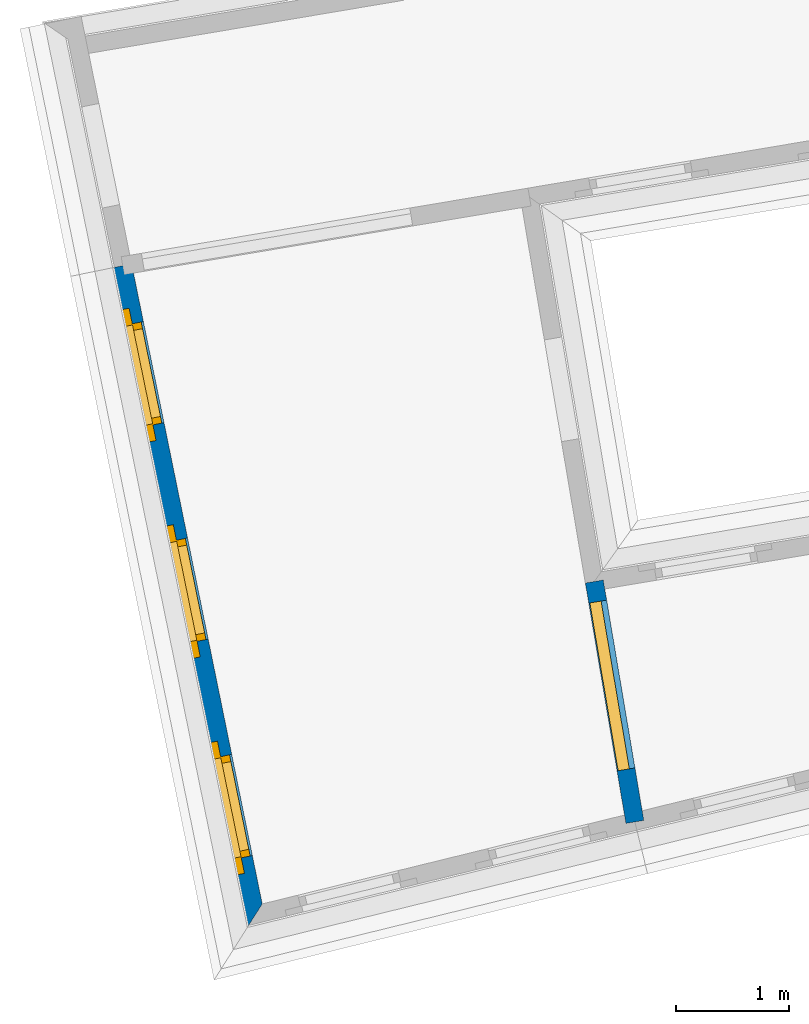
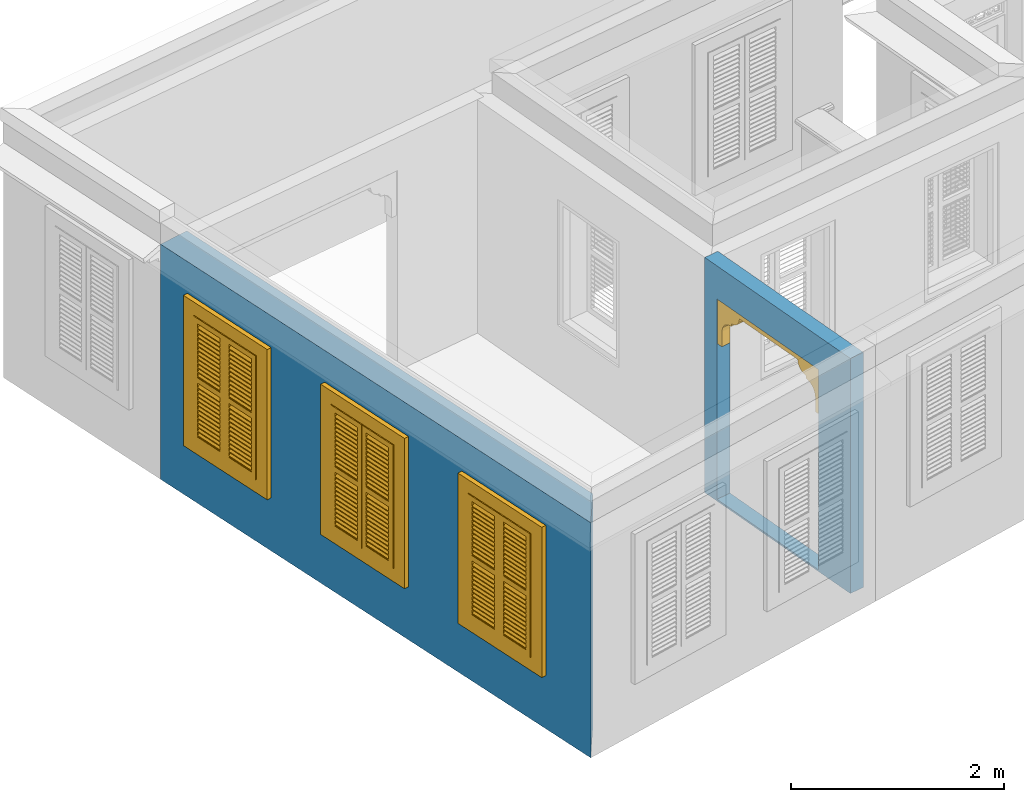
# One storey, part 2 of 12: 3 windows, 2 walls, 1 door, 4 openings.
"""IFC4 building model written with IfcOpenShell, lengths in metres."""

from ifc_helpers import new_model, si_unit, frame, origin, origin_with_axes, place, context, subcontext, project, spatial, polyline, outline, extrude, faceted_brep, source, transform, mapped, material, layer, layer_set, layer_usage, type_object, type_shapes, element, fill, save


model = new_model("IFC4")

# Units and contexts
model_context = context("Model", 3, world=origin_with_axes())
body_context = subcontext(model_context, "Body", "Model", "MODEL_VIEW")
ifc_project = project(units=[si_unit("PLANEANGLEUNIT", "RADIAN"), si_unit("MASSUNIT", "GRAM", prefix="KILO"), si_unit("FORCEUNIT", "NEWTON", prefix="KILO"), si_unit("LENGTHUNIT", "METRE"), si_unit("AREAUNIT", "SQUARE_METRE"), si_unit("VOLUMEUNIT", "CUBIC_METRE")], contexts=[model_context, model_context])

# Site, building, storey
site_placement = place(None, origin_with_axes())
site = spatial("IfcSite", under=ifc_project, at=site_placement, Name="Site plot-6", CompositionType="ELEMENT")
building_placement = place(None, origin_with_axes())
building = spatial("IfcBuilding", under=site, at=building_placement, Name="Building plot-6", CompositionType="ELEMENT")
storey_placement = place(None, frame((0.0, 0.0, 3.6), z_axis=(0.0, 0.0, 1.0), x_axis=(1.0, 0.0, 0.0)))
storey = spatial("IfcBuildingStorey", under=building, at=storey_placement, Name="plot-6 1", CompositionType="ELEMENT", Elevation=3.6)

# Wall, openings, windows
ifc_material_1 = material(Name="Masonry")
ifc_layer_1 = layer(ifc_material_1, 0.33, ventilated=False)
ifc_layer_set_1 = layer_set([ifc_layer_1], Name="exterior_0.08_0.25")
ifc_layer_usage_1 = layer_usage(ifc_layer_set_1, "AXIS2", "POSITIVE", -0.25)
wall_type_1 = type_object("IfcWallType", Name="exterior_0.08_0.25", PredefinedType="SOLIDWALL", material=ifc_layer_set_1)
wall_1_placement = place(storey_placement, frame((-10.5327129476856, 2.06032949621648, 0.0), z_axis=(0.0, 0.0, 1.0), x_axis=(0.19994351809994, -0.979807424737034, 0.0)))
wall_1 = element("IfcWall", 1, at=wall_1_placement, inside=storey, type_object=wall_type_1, material=ifc_layer_usage_1, Name="exterior", context=body_context, shape_type="SweptSolid", body=[
    extrude(outline(polyline([(7.86495596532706e-16, 0.0800000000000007), (-2.26637030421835e-15, -0.250000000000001), (6.10317165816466, -0.25), (5.75996788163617, 0.0800000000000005), (7.86495596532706e-16, 0.0800000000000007)])), origin_with_axes(), (0.0, 0.0, 1.0), 2.7),
])
opening_1_placement = place(wall_1_placement, frame((0.518861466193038, 0.0, 0.75)))
opening_1 = element("IfcOpeningElement", 2, at=opening_1_placement, cuts=wall_1, Name="My Opening", ObjectType="Opening", context=body_context, shape_type="SweptSolid", body=[
    extrude(outline(polyline([(0.0, -0.27), (0.91, -0.270000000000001), (0.910000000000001, 1.1), (2.22044604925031e-16, 1.1), (0.0, -0.27)])), origin_with_axes(), (0.0, 0.0, 1.0), 1.445),
])
opening_2_placement = place(wall_1_placement, frame((2.46658439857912, 0.0, 0.75)))
opening_2 = element("IfcOpeningElement", 3, at=opening_2_placement, cuts=wall_1, Name="My Opening", ObjectType="Opening", context=body_context, shape_type="SweptSolid", body=[
    extrude(outline(polyline([(0.0, -0.270000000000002), (0.91, -0.27), (0.91, 1.1), (0.0, 1.1), (0.0, -0.270000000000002)])), origin_with_axes(), (0.0, 0.0, 1.0), 1.445),
])
opening_3_placement = place(wall_1_placement, frame((4.41430733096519, 0.0, 0.75)))
opening_3 = element("IfcOpeningElement", 4, at=opening_3_placement, cuts=wall_1, Name="My Opening", ObjectType="Opening", context=body_context, shape_type="SweptSolid", body=[
    extrude(outline(polyline([(0.0, -0.270000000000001), (0.91, -0.270000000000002), (0.909999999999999, 1.1), (-8.88178419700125e-16, 1.1), (0.0, -0.270000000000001)])), origin_with_axes(), (0.0, 0.0, 1.0), 1.445),
])
window_type = type_object("IfcWindowType", Name="shuttered_shorter", PartitioningType="DOUBLE_PANEL_HORIZONTAL", PredefinedType="NOTDEFINED")
shared_shape_1 = source(origin(), body_context, "Body", "Brep", [
    faceted_brep([(0.393, 0.0, 0.622), (0.074, 0.0, 0.622), (0.074, 0.0, 0.632), (0.393, 0.0, 0.632), (0.074, -0.04, 0.592), (0.393, -0.04, 0.592), (0.393, -0.04, 0.582), (0.074, -0.04, 0.582), (0.517, 0.0, 0.682), (0.836, 0.0, 0.682), (0.836, 0.0, 0.672), (0.517, 0.0, 0.672), (0.517, -0.04, 0.642), (0.836, -0.04, 0.642), (0.836, -0.04, 0.632), (0.517, -0.04, 0.632), (0.517, 0.0, 0.632), (0.836, 0.0, 0.632), (0.836, 0.0, 0.622), (0.517, 0.0, 0.622), (0.517, -0.04, 0.592), (0.836, -0.04, 0.592), (0.836, -0.04, 0.582), (0.517, -0.04, 0.582), (0.517, 0.0, 0.232), (0.836, 0.0, 0.232), (0.836, 0.0, 0.222), (0.517, 0.0, 0.222), (0.517, -0.04, 0.192), (0.836, -0.04, 0.192), (0.836, -0.04, 0.182), (0.517, -0.04, 0.182), (0.517, 0.0, 0.532), (0.836, 0.0, 0.532), (0.836, 0.0, 0.522), (0.517, 0.0, 0.522), (0.517, -0.04, 0.492), (0.836, -0.04, 0.492), (0.836, -0.04, 0.482), (0.517, -0.04, 0.482), (0.517, 0.0, 0.482), (0.836, 0.0, 0.482), (0.836, 0.0, 0.472), (0.517, 0.0, 0.472), (0.517, -0.04, 0.442), (0.836, -0.04, 0.442), (0.836, -0.04, 0.432), (0.517, -0.04, 0.432), (0.517, 0.0, 0.582), (0.836, 0.0, 0.582), (0.836, 0.0, 0.572), (0.517, 0.0, 0.572), (0.517, -0.04, 0.542), (0.836, -0.04, 0.542), (0.836, -0.04, 0.532), (0.517, -0.04, 0.532), (0.517, 0.0, 0.182), (0.836, 0.0, 0.182), (0.836, 0.0, 0.172), (0.517, 0.0, 0.172), (0.517, -0.04, 0.142), (0.836, -0.04, 0.142), (0.836, -0.04, 0.132), (0.517, -0.04, 0.132), (0.517, 0.0, 0.382), (0.836, 0.0, 0.382), (0.836, 0.0, 0.372), (0.517, 0.0, 0.372), (0.517, -0.04, 0.342), (0.836, -0.04, 0.342), (0.836, -0.04, 0.332), (0.517, -0.04, 0.332), (0.517, 0.0, 0.432), (0.836, 0.0, 0.432), (0.836, 0.0, 0.422), (0.517, 0.0, 0.422), (0.517, -0.04, 0.392), (0.836, -0.04, 0.392), (0.836, -0.04, 0.382), (0.517, -0.04, 0.382), (0.517, 0.0, 0.132), (0.836, 0.0, 0.132), (0.836, 0.0, 0.122), (0.517, 0.0, 0.122), (0.517, -0.04, 0.092), (0.836, -0.04, 0.092), (0.836, -0.04, 0.082), (0.517, -0.04, 0.082), (0.517, 0.0, 0.282), (0.836, 0.0, 0.282), (0.836, 0.0, 0.272), (0.517, 0.0, 0.272), (0.517, -0.04, 0.242), (0.836, -0.04, 0.242), (0.836, -0.04, 0.232), (0.517, -0.04, 0.232), (0.517, 0.0, 0.332), (0.836, 0.0, 0.332), (0.836, 0.0, 0.322), (0.517, 0.0, 0.322), (0.517, -0.04, 0.292), (0.836, -0.04, 0.292), (0.836, -0.04, 0.282), (0.517, -0.04, 0.282), (0.517, 0.0, 1.362667), (0.836, 0.0, 1.362667), (0.836, 0.0, 1.352667), (0.517, 0.0, 1.352667), (0.517, -0.04, 1.322667), (0.836, -0.04, 1.322667), (0.836, -0.04, 1.312667), (0.517, -0.04, 1.312667), (0.517, 0.0, 1.312667), (0.836, 0.0, 1.312667), (0.836, 0.0, 1.302667), (0.517, 0.0, 1.302667), (0.517, -0.04, 1.272667), (0.836, -0.04, 1.272667), (0.836, -0.04, 1.262667), (0.517, -0.04, 1.262667), (0.517, 0.0, 0.912667), (0.836, 0.0, 0.912667), (0.836, 0.0, 0.902667), (0.517, 0.0, 0.902667), (0.517, -0.04, 0.872667), (0.836, -0.04, 0.872667), (0.836, -0.04, 0.862667), (0.517, -0.04, 0.862667), (0.517, 0.0, 1.212667), (0.836, 0.0, 1.212667), (0.836, 0.0, 1.202667), (0.517, 0.0, 1.202667), (0.517, -0.04, 1.172667), (0.836, -0.04, 1.172667), (0.836, -0.04, 1.162667), (0.517, -0.04, 1.162667), (0.517, 0.0, 1.162667), (0.836, 0.0, 1.162667), (0.836, 0.0, 1.152667), (0.517, 0.0, 1.152667), (0.517, -0.04, 1.122667), (0.836, -0.04, 1.122667), (0.836, -0.04, 1.112667), (0.517, -0.04, 1.112667), (0.517, 0.0, 1.262667), (0.836, 0.0, 1.262667), (0.836, 0.0, 1.252667), (0.517, 0.0, 1.252667), (0.517, -0.04, 1.222667), (0.836, -0.04, 1.222667), (0.836, -0.04, 1.212667), (0.517, -0.04, 1.212667), (0.517, 0.0, 0.862667), (0.836, 0.0, 0.862667), (0.836, 0.0, 0.852667), (0.517, 0.0, 0.852667), (0.517, -0.04, 0.822667), (0.836, -0.04, 0.822667), (0.836, -0.04, 0.812667), (0.517, -0.04, 0.812667), (0.517, 0.0, 1.062667), (0.836, 0.0, 1.062667), (0.836, 0.0, 1.052667), (0.517, 0.0, 1.052667), (0.517, -0.04, 1.022667), (0.836, -0.04, 1.022667), (0.836, -0.04, 1.012667), (0.517, -0.04, 1.012667), (0.517, 0.0, 1.112667), (0.836, 0.0, 1.112667), (0.836, 0.0, 1.102667), (0.517, 0.0, 1.102667), (0.517, -0.04, 1.072667), (0.836, -0.04, 1.072667), (0.836, -0.04, 1.062667), (0.517, -0.04, 1.062667), (0.517, 0.0, 0.812667), (0.836, 0.0, 0.812667), (0.836, 0.0, 0.802667), (0.517, 0.0, 0.802667), (0.517, -0.04, 0.772667), (0.836, -0.04, 0.772667), (0.836, -0.04, 0.762667), (0.517, -0.04, 0.762667), (0.517, 0.0, 0.962667), (0.836, 0.0, 0.962667), (0.836, 0.0, 0.952667), (0.517, 0.0, 0.952667), (0.517, -0.04, 0.922667), (0.836, -0.04, 0.922667), (0.836, -0.04, 0.912667), (0.517, -0.04, 0.912667), (0.517, 0.0, 1.012667), (0.836, 0.0, 1.012667), (0.836, 0.0, 1.002667), (0.517, 0.0, 1.002667), (0.517, -0.04, 0.972667), (0.836, -0.04, 0.972667), (0.836, -0.04, 0.962667), (0.517, -0.04, 0.962667), (0.074, 0.0, 0.682), (0.393, 0.0, 0.682), (0.393, 0.0, 0.672), (0.074, 0.0, 0.672), (0.074, -0.04, 0.642), (0.393, -0.04, 0.642), (0.393, -0.04, 0.632), (0.074, -0.04, 0.632), (0.074, 0.0, 0.232), (0.393, 0.0, 0.232), (0.393, 0.0, 0.222), (0.074, 0.0, 0.222), (0.074, -0.04, 0.192), (0.393, -0.04, 0.192), (0.393, -0.04, 0.182), (0.074, -0.04, 0.182), (0.074, 0.0, 0.532), (0.393, 0.0, 0.532), (0.393, 0.0, 0.522), (0.074, 0.0, 0.522), (0.074, -0.04, 0.492), (0.393, -0.04, 0.492), (0.393, -0.04, 0.482), (0.074, -0.04, 0.482), (0.074, 0.0, 0.482), (0.393, 0.0, 0.482), (0.393, 0.0, 0.472), (0.074, 0.0, 0.472), (0.074, -0.04, 0.442), (0.393, -0.04, 0.442), (0.393, -0.04, 0.432), (0.074, -0.04, 0.432), (0.074, 0.0, 0.582), (0.393, 0.0, 0.582), (0.393, 0.0, 0.572), (0.074, 0.0, 0.572), (0.074, -0.04, 0.542), (0.393, -0.04, 0.542), (0.393, -0.04, 0.532), (0.074, -0.04, 0.532), (0.074, 0.0, 0.182), (0.393, 0.0, 0.182), (0.393, 0.0, 0.172), (0.074, 0.0, 0.172), (0.074, -0.04, 0.142), (0.393, -0.04, 0.142), (0.393, -0.04, 0.132), (0.074, -0.04, 0.132), (0.074, 0.0, 0.382), (0.393, 0.0, 0.382), (0.393, 0.0, 0.372), (0.074, 0.0, 0.372), (0.074, -0.04, 0.342), (0.393, -0.04, 0.342), (0.393, -0.04, 0.332), (0.074, -0.04, 0.332), (0.074, 0.0, 0.432), (0.393, 0.0, 0.432), (0.393, 0.0, 0.422), (0.074, 0.0, 0.422), (0.074, -0.04, 0.392), (0.393, -0.04, 0.392), (0.393, -0.04, 0.382), (0.074, -0.04, 0.382), (0.074, 0.0, 0.132), (0.393, 0.0, 0.132), (0.393, 0.0, 0.122), (0.074, 0.0, 0.122), (0.074, -0.04, 0.092), (0.393, -0.04, 0.092), (0.393, -0.04, 0.082), (0.074, -0.04, 0.082), (0.074, 0.0, 0.282), (0.393, 0.0, 0.282), (0.393, 0.0, 0.272), (0.074, 0.0, 0.272), (0.074, -0.04, 0.242), (0.393, -0.04, 0.242), (0.393, -0.04, 0.232), (0.074, -0.04, 0.232), (0.074, 0.0, 0.332), (0.393, 0.0, 0.332), (0.393, 0.0, 0.322), (0.074, 0.0, 0.322), (0.074, -0.04, 0.292), (0.393, -0.04, 0.292), (0.393, -0.04, 0.282), (0.074, -0.04, 0.282), (0.074, 0.0, 1.362667), (0.393, 0.0, 1.362667), (0.393, 0.0, 1.352667), (0.074, 0.0, 1.352667), (0.074, -0.04, 1.322667), (0.393, -0.04, 1.322667), (0.393, -0.04, 1.312667), (0.074, -0.04, 1.312667), (0.074, 0.0, 1.312667), (0.393, 0.0, 1.312667), (0.393, 0.0, 1.302667), (0.074, 0.0, 1.302667), (0.074, -0.04, 1.272667), (0.393, -0.04, 1.272667), (0.393, -0.04, 1.262667), (0.074, -0.04, 1.262667), (0.074, 0.0, 0.912667), (0.393, 0.0, 0.912667), (0.393, 0.0, 0.902667), (0.074, 0.0, 0.902667), (0.074, -0.04, 0.872667), (0.393, -0.04, 0.872667), (0.393, -0.04, 0.862667), (0.074, -0.04, 0.862667), (0.074, 0.0, 1.212667), (0.393, 0.0, 1.212667), (0.393, 0.0, 1.202667), (0.074, 0.0, 1.202667), (0.074, -0.04, 1.172667), (0.393, -0.04, 1.172667), (0.393, -0.04, 1.162667), (0.074, -0.04, 1.162667), (0.074, 0.0, 1.162667), (0.393, 0.0, 1.162667), (0.393, 0.0, 1.152667), (0.074, 0.0, 1.152667), (0.074, -0.04, 1.122667), (0.393, -0.04, 1.122667), (0.393, -0.04, 1.112667), (0.074, -0.04, 1.112667), (0.074, 0.0, 1.262667), (0.393, 0.0, 1.262667), (0.393, 0.0, 1.252667), (0.074, 0.0, 1.252667), (0.074, -0.04, 1.222667), (0.393, -0.04, 1.222667), (0.393, -0.04, 1.212667), (0.074, -0.04, 1.212667), (0.074, 0.0, 0.862667), (0.393, 0.0, 0.862667), (0.393, 0.0, 0.852667), (0.074, 0.0, 0.852667), (0.074, -0.04, 0.822667), (0.393, -0.04, 0.822667), (0.393, -0.04, 0.812667), (0.074, -0.04, 0.812667), (0.074, 0.0, 1.062667), (0.393, 0.0, 1.062667), (0.393, 0.0, 1.052667), (0.074, 0.0, 1.052667), (0.074, -0.04, 1.022667), (0.393, -0.04, 1.022667), (0.393, -0.04, 1.012667), (0.074, -0.04, 1.012667), (0.074, 0.0, 1.112667), (0.393, 0.0, 1.112667), (0.393, 0.0, 1.102667), (0.074, 0.0, 1.102667), (0.074, -0.04, 1.072667), (0.393, -0.04, 1.072667), (0.393, -0.04, 1.062667), (0.074, -0.04, 1.062667), (0.074, 0.0, 0.812667), (0.393, 0.0, 0.812667), (0.393, 0.0, 0.802667), (0.074, 0.0, 0.802667), (0.074, -0.04, 0.772667), (0.393, -0.04, 0.772667), (0.393, -0.04, 0.762667), (0.074, -0.04, 0.762667), (0.074, 0.0, 0.962667), (0.393, 0.0, 0.962667), (0.393, 0.0, 0.952667), (0.074, 0.0, 0.952667), (0.074, -0.04, 0.922667), (0.393, -0.04, 0.922667), (0.393, -0.04, 0.912667), (0.074, -0.04, 0.912667), (0.074, 0.0, 1.012667), (0.393, 0.0, 1.012667), (0.393, 0.0, 1.002667), (0.074, 0.0, 1.002667), (0.074, -0.04, 0.972667), (0.393, -0.04, 0.972667), (0.393, -0.04, 0.962667), (0.074, -0.04, 0.962667), (0.517, -0.04, 0.072), (0.457, -0.04, 0.012), (0.896, -0.04, 0.012), (0.836, -0.04, 0.072), (0.457, -0.04, 0.692667), (0.517, -0.04, 0.692667), (0.457, 0.0, 0.012), (0.896, 0.0, 0.012), (0.836, -0.04, 0.692667), (0.896, -0.04, 0.692667), (0.836, 0.0, 0.072), (0.517, 0.0, 0.072), (0.457, 0.0, 0.692667), (0.517, 0.0, 0.692667), (0.517, -0.04, 0.752666), (0.457, -0.04, 0.752666), (0.896, 0.0, 0.692667), (0.836, 0.0, 0.692667), (0.836, -0.04, 0.752666), (0.896, -0.04, 0.752666), (0.457, 0.0, 0.752666), (0.457, -0.04, 1.433333), (0.517, -0.04, 1.373333), (0.896, 0.0, 0.752666), (0.836, -0.04, 1.373333), (0.896, -0.04, 1.433333), (0.457, 0.0, 1.433333), (0.517, 0.0, 0.752666), (0.836, 0.0, 0.752666), (0.517, 0.0, 1.373333), (0.896, 0.0, 1.433333), (0.836, 0.0, 1.373333), (0.074, -0.04, 0.072), (0.014, -0.04, 0.012), (0.453, -0.04, 0.012), (0.393, -0.04, 0.072), (0.014, -0.04, 0.692667), (0.074, -0.04, 0.692667), (0.014, 0.0, 0.012), (0.453, 0.0, 0.012), (0.393, -0.04, 0.692667), (0.453, -0.04, 0.692667), (0.393, 0.0, 0.072), (0.074, 0.0, 0.072), (0.014, 0.0, 0.692667), (0.074, 0.0, 0.692667), (0.074, -0.04, 0.752666), (0.014, -0.04, 0.752666), (0.453, 0.0, 0.692667), (0.393, 0.0, 0.692667), (0.393, -0.04, 0.752666), (0.453, -0.04, 0.752666), (0.014, 0.0, 0.752666), (0.014, -0.04, 1.433333), (0.074, -0.04, 1.373333), (0.453, 0.0, 0.752666), (0.393, -0.04, 1.373333), (0.453, -0.04, 1.433333), (0.014, 0.0, 1.433333), (0.074, 0.0, 0.752666), (0.393, 0.0, 0.752666), (0.074, 0.0, 1.373333), (0.453, 0.0, 1.433333), (0.393, 0.0, 1.373333), (0.0, 0.33, 1.445), (0.91, 0.33, 1.445), (0.85, 0.33, 1.385), (0.06, 0.33, 1.385), (0.91, 0.25, 1.445), (0.0, 0.25, 1.445), (0.91, 0.25, 1.445), (0.85, 0.33, 0.06), (0.91, 0.33, 0.0), (0.85, 0.25, 1.385), (0.06, 0.25, 1.385), (0.0, 0.33, 0.0), (0.06, 0.33, 0.06), (0.0, 0.25, 0.0), (0.91, 0.25, 0.0), (0.85, 0.25, 0.06), (0.06, 0.25, 0.06), (1.05, 0.25, 1.585), (-0.14, 0.25, 1.585), (-0.14, -0.03, 1.585), (1.05, -0.03, 1.585), (0.9, -0.03, 1.435), (0.01, -0.03, 1.435), (0.01, 0.25, 1.435), (0.9, 0.25, 1.435), (0.9, 0.25, 0.01), (0.9, -0.03, 0.01), (1.05, -0.03, -0.14), (1.05, 0.25, -0.14), (0.01, -0.03, 0.01), (0.01, 0.25, 0.01), (-0.14, -0.03, -0.14), (-0.14, 0.25, -0.14)], [[[0, 1, 2, 3]], [[4, 5, 3, 2]], [[5, 6, 0, 3]], [[1, 0, 6, 7]], [[2, 1, 7, 4]], [[5, 4, 7, 6]], [[8, 9, 10, 11]], [[12, 13, 9, 8]], [[13, 14, 10, 9]], [[14, 15, 11, 10]], [[15, 12, 8, 11]], [[13, 12, 15, 14]], [[16, 17, 18, 19]], [[20, 21, 17, 16]], [[21, 22, 18, 17]], [[22, 23, 19, 18]], [[23, 20, 16, 19]], [[21, 20, 23, 22]], [[24, 25, 26, 27]], [[28, 29, 25, 24]], [[29, 30, 26, 25]], [[30, 31, 27, 26]], [[31, 28, 24, 27]], [[29, 28, 31, 30]], [[32, 33, 34, 35]], [[36, 37, 33, 32]], [[37, 38, 34, 33]], [[38, 39, 35, 34]], [[39, 36, 32, 35]], [[37, 36, 39, 38]], [[40, 41, 42, 43]], [[44, 45, 41, 40]], [[45, 46, 42, 41]], [[46, 47, 43, 42]], [[47, 44, 40, 43]], [[45, 44, 47, 46]], [[48, 49, 50, 51]], [[52, 53, 49, 48]], [[53, 54, 50, 49]], [[54, 55, 51, 50]], [[55, 52, 48, 51]], [[53, 52, 55, 54]], [[56, 57, 58, 59]], [[60, 61, 57, 56]], [[61, 62, 58, 57]], [[62, 63, 59, 58]], [[63, 60, 56, 59]], [[61, 60, 63, 62]], [[64, 65, 66, 67]], [[68, 69, 65, 64]], [[69, 70, 66, 65]], [[70, 71, 67, 66]], [[71, 68, 64, 67]], [[69, 68, 71, 70]], [[72, 73, 74, 75]], [[76, 77, 73, 72]], [[77, 78, 74, 73]], [[78, 79, 75, 74]], [[79, 76, 72, 75]], [[77, 76, 79, 78]], [[80, 81, 82, 83]], [[84, 85, 81, 80]], [[85, 86, 82, 81]], [[86, 87, 83, 82]], [[87, 84, 80, 83]], [[85, 84, 87, 86]], [[88, 89, 90, 91]], [[92, 93, 89, 88]], [[93, 94, 90, 89]], [[94, 95, 91, 90]], [[95, 92, 88, 91]], [[93, 92, 95, 94]], [[96, 97, 98, 99]], [[100, 101, 97, 96]], [[101, 102, 98, 97]], [[102, 103, 99, 98]], [[103, 100, 96, 99]], [[101, 100, 103, 102]], [[104, 105, 106, 107]], [[108, 109, 105, 104]], [[109, 110, 106, 105]], [[110, 111, 107, 106]], [[111, 108, 104, 107]], [[109, 108, 111, 110]], [[112, 113, 114, 115]], [[116, 117, 113, 112]], [[117, 118, 114, 113]], [[118, 119, 115, 114]], [[119, 116, 112, 115]], [[117, 116, 119, 118]], [[120, 121, 122, 123]], [[124, 125, 121, 120]], [[125, 126, 122, 121]], [[126, 127, 123, 122]], [[127, 124, 120, 123]], [[125, 124, 127, 126]], [[128, 129, 130, 131]], [[132, 133, 129, 128]], [[133, 134, 130, 129]], [[134, 135, 131, 130]], [[135, 132, 128, 131]], [[133, 132, 135, 134]], [[136, 137, 138, 139]], [[140, 141, 137, 136]], [[141, 142, 138, 137]], [[142, 143, 139, 138]], [[139, 143, 140, 136]], [[141, 140, 143, 142]], [[144, 145, 146, 147]], [[148, 149, 145, 144]], [[149, 150, 146, 145]], [[150, 151, 147, 146]], [[151, 148, 144, 147]], [[149, 148, 151, 150]], [[152, 153, 154, 155]], [[156, 157, 153, 152]], [[157, 158, 154, 153]], [[158, 159, 155, 154]], [[159, 156, 152, 155]], [[157, 156, 159, 158]], [[160, 161, 162, 163]], [[164, 165, 161, 160]], [[165, 166, 162, 161]], [[166, 167, 163, 162]], [[167, 164, 160, 163]], [[165, 164, 167, 166]], [[168, 169, 170, 171]], [[172, 173, 169, 168]], [[173, 174, 170, 169]], [[174, 175, 171, 170]], [[175, 172, 168, 171]], [[173, 172, 175, 174]], [[176, 177, 178, 179]], [[180, 181, 177, 176]], [[181, 182, 178, 177]], [[182, 183, 179, 178]], [[183, 180, 176, 179]], [[181, 180, 183, 182]], [[184, 185, 186, 187]], [[188, 189, 185, 184]], [[189, 190, 186, 185]], [[190, 191, 187, 186]], [[191, 188, 184, 187]], [[189, 188, 191, 190]], [[192, 193, 194, 195]], [[196, 197, 193, 192]], [[197, 198, 194, 193]], [[198, 199, 195, 194]], [[199, 196, 192, 195]], [[197, 196, 199, 198]], [[200, 201, 202, 203]], [[204, 205, 201, 200]], [[205, 206, 202, 201]], [[206, 207, 203, 202]], [[207, 204, 200, 203]], [[205, 204, 207, 206]], [[208, 209, 210, 211]], [[212, 213, 209, 208]], [[213, 214, 210, 209]], [[214, 215, 211, 210]], [[215, 212, 208, 211]], [[213, 212, 215, 214]], [[216, 217, 218, 219]], [[220, 221, 217, 216]], [[221, 222, 218, 217]], [[222, 223, 219, 218]], [[223, 220, 216, 219]], [[221, 220, 223, 222]], [[224, 225, 226, 227]], [[228, 229, 225, 224]], [[229, 230, 226, 225]], [[230, 231, 227, 226]], [[231, 228, 224, 227]], [[229, 228, 231, 230]], [[232, 233, 234, 235]], [[236, 237, 233, 232]], [[237, 238, 234, 233]], [[238, 239, 235, 234]], [[239, 236, 232, 235]], [[237, 236, 239, 238]], [[240, 241, 242, 243]], [[244, 245, 241, 240]], [[245, 246, 242, 241]], [[246, 247, 243, 242]], [[247, 244, 240, 243]], [[245, 244, 247, 246]], [[248, 249, 250, 251]], [[252, 253, 249, 248]], [[253, 254, 250, 249]], [[254, 255, 251, 250]], [[255, 252, 248, 251]], [[253, 252, 255, 254]], [[256, 257, 258, 259]], [[260, 261, 257, 256]], [[261, 262, 258, 257]], [[262, 263, 259, 258]], [[263, 260, 256, 259]], [[261, 260, 263, 262]], [[264, 265, 266, 267]], [[268, 269, 265, 264]], [[269, 270, 266, 265]], [[270, 271, 267, 266]], [[271, 268, 264, 267]], [[269, 268, 271, 270]], [[272, 273, 274, 275]], [[276, 277, 273, 272]], [[277, 278, 274, 273]], [[278, 279, 275, 274]], [[279, 276, 272, 275]], [[277, 276, 279, 278]], [[280, 281, 282, 283]], [[284, 285, 281, 280]], [[285, 286, 282, 281]], [[286, 287, 283, 282]], [[287, 284, 280, 283]], [[285, 284, 287, 286]], [[288, 289, 290, 291]], [[292, 293, 289, 288]], [[293, 294, 290, 289]], [[294, 295, 291, 290]], [[295, 292, 288, 291]], [[293, 292, 295, 294]], [[296, 297, 298, 299]], [[300, 301, 297, 296]], [[301, 302, 298, 297]], [[302, 303, 299, 298]], [[303, 300, 296, 299]], [[301, 300, 303, 302]], [[304, 305, 306, 307]], [[308, 309, 305, 304]], [[309, 310, 306, 305]], [[310, 311, 307, 306]], [[311, 308, 304, 307]], [[309, 308, 311, 310]], [[312, 313, 314, 315]], [[316, 317, 313, 312]], [[317, 318, 314, 313]], [[318, 319, 315, 314]], [[319, 316, 312, 315]], [[317, 316, 319, 318]], [[320, 321, 322, 323]], [[324, 325, 321, 320]], [[325, 326, 322, 321]], [[326, 327, 323, 322]], [[327, 324, 320, 323]], [[325, 324, 327, 326]], [[328, 329, 330, 331]], [[332, 333, 329, 328]], [[333, 334, 330, 329]], [[334, 335, 331, 330]], [[335, 332, 328, 331]], [[333, 332, 335, 334]], [[336, 337, 338, 339]], [[340, 341, 337, 336]], [[341, 342, 338, 337]], [[342, 343, 339, 338]], [[343, 340, 336, 339]], [[341, 340, 343, 342]], [[344, 345, 346, 347]], [[348, 349, 345, 344]], [[349, 350, 346, 345]], [[350, 351, 347, 346]], [[351, 348, 344, 347]], [[349, 348, 351, 350]], [[352, 353, 354, 355]], [[356, 357, 353, 352]], [[357, 358, 354, 353]], [[358, 359, 355, 354]], [[359, 356, 352, 355]], [[357, 356, 359, 358]], [[360, 361, 362, 363]], [[364, 365, 361, 360]], [[365, 366, 362, 361]], [[366, 367, 363, 362]], [[367, 364, 360, 363]], [[365, 364, 367, 366]], [[368, 369, 370, 371]], [[372, 373, 369, 368]], [[373, 374, 370, 369]], [[374, 375, 371, 370]], [[375, 372, 368, 371]], [[373, 372, 375, 374]], [[376, 377, 378, 379]], [[380, 381, 377, 376]], [[381, 382, 378, 377]], [[382, 383, 379, 378]], [[383, 380, 376, 379]], [[381, 380, 383, 382]], [[384, 385, 386, 387]], [[388, 385, 384, 389]], [[390, 391, 386, 385]], [[392, 387, 386, 393]], [[384, 387, 394, 395]], [[390, 385, 388, 396]], [[389, 384, 395, 397]], [[389, 398, 399, 388]], [[390, 395, 394, 391]], [[400, 393, 386, 391]], [[387, 392, 401, 394]], [[402, 392, 393, 403]], [[396, 388, 399, 404]], [[390, 396, 397, 395]], [[392, 389, 397, 401]], [[398, 389, 392, 402]], [[405, 399, 398, 406]], [[394, 401, 400, 391]], [[407, 403, 393, 400]], [[408, 402, 403, 409]], [[404, 399, 405, 410]], [[411, 397, 396, 404]], [[397, 411, 412, 401]], [[398, 402, 412, 411]], [[406, 398, 411, 413]], [[405, 406, 408, 409]], [[401, 412, 407, 400]], [[414, 409, 403, 407]], [[402, 408, 415, 412]], [[405, 409, 414, 410]], [[404, 410, 413, 411]], [[408, 406, 413, 415]], [[412, 415, 414, 407]], [[413, 410, 414, 415]], [[416, 417, 418, 419]], [[420, 417, 416, 421]], [[422, 423, 418, 417]], [[424, 419, 418, 425]], [[416, 419, 426, 427]], [[422, 417, 420, 428]], [[421, 416, 427, 429]], [[421, 430, 431, 420]], [[422, 427, 426, 423]], [[432, 425, 418, 423]], [[419, 424, 433, 426]], [[434, 424, 425, 435]], [[428, 420, 431, 436]], [[422, 428, 429, 427]], [[424, 421, 429, 433]], [[430, 421, 424, 434]], [[437, 431, 430, 438]], [[426, 433, 432, 423]], [[439, 435, 425, 432]], [[440, 434, 435, 441]], [[436, 431, 437, 442]], [[443, 429, 428, 436]], [[429, 443, 444, 433]], [[430, 434, 444, 443]], [[438, 430, 443, 445]], [[437, 438, 440, 441]], [[433, 444, 439, 432]], [[446, 441, 435, 439]], [[434, 440, 447, 444]], [[437, 441, 446, 442]], [[436, 442, 445, 443]], [[440, 438, 445, 447]], [[444, 447, 446, 439]], [[445, 442, 446, 447]], [[448, 449, 450, 451]], [[452, 449, 448]], [[448, 453, 454]], [[448, 454, 452]], [[455, 450, 449, 456]], [[451, 450, 457, 458]], [[459, 448, 451, 460]], [[448, 459, 461, 453]], [[454, 453, 458, 457]], [[462, 452, 454]], [[454, 457, 463]], [[454, 463, 462]], [[456, 449, 452, 462]], [[450, 455, 463, 457]], [[456, 459, 460, 455]], [[460, 451, 458, 464]], [[459, 456, 462, 461]], [[464, 458, 453, 461]], [[461, 462, 463, 464]], [[455, 460, 464, 463]], [[465, 466, 467, 468]], [[469, 470, 471, 472]], [[473, 474, 469, 472]], [[465, 468, 475, 476]], [[470, 477, 478, 471]], [[474, 473, 478, 477]], [[474, 477, 479, 475]], [[470, 467, 479, 477]], [[470, 469, 468, 467]], [[474, 475, 468, 469]], [[471, 478, 480, 466]], [[473, 472, 465, 476]], [[473, 476, 480, 478]], [[466, 465, 472, 471]], [[480, 476, 475, 479]], [[480, 479, 467, 466]]]),
])
type_shapes(window_type, [shared_shape_1])
window_1_placement = place(storey_placement, frame((-10.6935179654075, 1.49796042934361, 0.75), z_axis=(0.0, 0.0, 1.0), x_axis=(0.181948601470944, -0.891624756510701, 0.0)))
window_1 = element("IfcWindow", 5, at=window_1_placement, inside=storey, type_object=window_type, Name="living outside window", OverallHeight=1.445, OverallWidth=0.91, context=body_context, shape_type="MappedRepresentation", body=[
    mapped(shared_shape_1, transform((0.0, 0.0, 0.0), scale=1.0)),
])
fill(opening_1, window_1)
window_2_placement = place(storey_placement, frame((-10.3040833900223, -0.410432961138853, 0.75), z_axis=(0.0, 0.0, 1.0), x_axis=(0.181948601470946, -0.891624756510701, 0.0)))
window_2 = element("IfcWindow", 6, at=window_2_placement, inside=storey, type_object=window_type, Name="living outside window", OverallHeight=1.445, OverallWidth=0.91, context=body_context, shape_type="MappedRepresentation", body=[
    mapped(shared_shape_1, transform((0.0, 0.0, 0.0), scale=1.0)),
])
fill(opening_2, window_2)
window_3_placement = place(storey_placement, frame((-9.91464881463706, -2.31882635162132, 0.75), z_axis=(0.0, 0.0, 1.0), x_axis=(0.181948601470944, -0.891624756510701, 0.0)))
window_3 = element("IfcWindow", 7, at=window_3_placement, inside=storey, type_object=window_type, Name="living outside window", OverallHeight=1.445, OverallWidth=0.91, context=body_context, shape_type="MappedRepresentation", body=[
    mapped(shared_shape_1, transform((0.0, 0.0, 0.0), scale=1.0)),
])
fill(opening_3, window_3)

# Wall, opening, door
ifc_material_2 = material(Name="Masonry")
ifc_layer_2 = layer(ifc_material_2, 0.16, ventilated=False)
ifc_layer_set_2 = layer_set([ifc_layer_2], Name="interior_0.08_0.08")
ifc_layer_usage_2 = layer_usage(ifc_layer_set_2, "AXIS2", "POSITIVE", -0.08)
wall_type_2 = type_object("IfcWallType", Name="interior_0.08_0.08", PredefinedType="SOLIDWALL", material=ifc_layer_set_2)
wall_2_placement = place(storey_placement, frame((-6.37480768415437, -0.724200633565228, 0.0), z_axis=(0.0, 0.0, 1.0), x_axis=(0.166292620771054, -0.986076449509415, 0.0)))
wall_2 = element("IfcWall", 8, at=wall_2_placement, inside=storey, type_object=wall_type_2, material=ifc_layer_usage_2, Name="interior", context=body_context, shape_type="SweptSolid", body=[
    extrude(outline(polyline([(-4.83921179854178e-17, 0.0799999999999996), (5.63585119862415e-17, -0.0799999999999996), (2.14964461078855, -0.0799999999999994), (2.14964461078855, 0.0799999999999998), (-4.83921179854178e-17, 0.0799999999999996)])), origin_with_axes(), (0.0, 0.0, 1.0), 2.7),
])
opening_4_placement = place(wall_2_placement, frame((0.18, 0.0, 0.02)))
opening_4 = element("IfcOpeningElement", 9, at=opening_4_placement, cuts=wall_2, Name="My Opening", ObjectType="Opening", context=body_context, shape_type="SweptSolid", body=[
    extrude(outline(polyline([(0.0, -0.1), (1.5, -0.1), (1.5, 1.1), (8.32667268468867e-17, 1.1), (0.0, -0.1)])), origin_with_axes(), (0.0, 0.0, 1.0), 2.3),
])
door_type = type_object("IfcDoorType", Name="arch-1500x2300-thin", OperationType="SINGLE_SWING_LEFT", PredefinedType="NOTDEFINED")
shared_shape_2 = source(origin(), body_context, "Body", "Brep", [
    faceted_brep([(1.5, 0.03, 1.78), (1.5, 0.03, 1.95), (1.44, 0.03, 1.95), (1.44, 0.03, 1.78), (1.44, 0.13, 1.95), (1.44, 0.13, 1.78), (1.5, 0.03, 2.12), (1.429, 0.03, 2.004), (1.5, 0.13, 1.78), (1.5, 0.13, 1.95), (1.429, 0.13, 2.004), (1.399, 0.03, 2.049), (1.5, 0.13, 2.12), (1.399, 0.13, 2.049), (1.354, 0.03, 2.079), (1.5, 0.13, 2.29), (1.5, 0.03, 2.29), (1.354, 0.13, 2.079), (1.3, 0.03, 2.09), (1.3, 0.03, 2.12), (1.254, 0.03, 2.129), (1.18, 0.13, 2.29), (1.18, 0.03, 2.29), (1.3, 0.13, 2.12), (1.254, 0.13, 2.129), (1.3, 0.13, 2.09), (1.215, 0.03, 2.155), (1.189, 0.13, 2.194), (1.18, 0.13, 2.24), (1.18, 0.03, 2.24), (1.189, 0.03, 2.194), (1.215, 0.13, 2.155), (0.06, 0.03, 1.78), (0.06, 0.03, 1.95), (0.0, 0.03, 1.95), (0.0, 0.03, 1.78), (0.06, 0.13, 1.78), (0.06, 0.13, 1.95), (0.071, 0.03, 2.004), (0.0, 0.03, 2.12), (0.0, 0.13, 1.95), (0.0, 0.13, 1.78), (0.071, 0.13, 2.004), (0.101, 0.03, 2.049), (0.0, 0.13, 2.12), (0.101, 0.13, 2.049), (0.146, 0.03, 2.079), (0.0, 0.03, 2.29), (0.0, 0.13, 2.29), (0.146, 0.13, 2.079), (0.2, 0.03, 2.12), (0.2, 0.03, 2.09), (0.246, 0.03, 2.129), (0.32, 0.03, 2.29), (0.32, 0.13, 2.29), (0.246, 0.13, 2.129), (0.2, 0.13, 2.12), (0.2, 0.13, 2.09), (0.285, 0.03, 2.155), (0.32, 0.13, 2.24), (0.311, 0.13, 2.194), (0.311, 0.03, 2.194), (0.32, 0.03, 2.24), (0.285, 0.13, 2.155)], [[[0, 1, 2, 3]], [[4, 5, 3, 2]], [[1, 6, 7, 2]], [[1, 0, 8, 9]], [[5, 8, 0, 3]], [[5, 4, 9, 8]], [[10, 4, 2, 7]], [[6, 11, 7]], [[6, 1, 9, 12]], [[4, 10, 12, 9]], [[13, 10, 7, 11]], [[6, 14, 11]], [[12, 15, 16, 6]], [[12, 10, 13]], [[17, 13, 11, 14]], [[18, 14, 6, 19]], [[6, 16, 20, 19]], [[16, 15, 21, 22]], [[23, 24, 15, 12]], [[12, 13, 17]], [[25, 17, 14, 18]], [[23, 25, 18, 19]], [[24, 23, 19, 20]], [[16, 26, 20]], [[15, 27, 28, 21]], [[16, 22, 29, 30]], [[31, 15, 24]], [[23, 12, 17, 25]], [[31, 24, 20, 26]], [[16, 30, 26]], [[28, 27, 30, 29]], [[27, 15, 31]], [[27, 31, 26, 30]], [[32, 33, 34, 35]], [[33, 32, 36, 37]], [[33, 38, 39, 34]], [[35, 34, 40, 41]], [[32, 35, 41, 36]], [[41, 40, 37, 36]], [[38, 33, 37, 42]], [[38, 43, 39]], [[44, 40, 34, 39]], [[40, 44, 42, 37]], [[43, 38, 42, 45]], [[43, 46, 39]], [[39, 47, 48, 44]], [[45, 42, 44]], [[46, 43, 45, 49]], [[50, 39, 46, 51]], [[50, 52, 47, 39]], [[53, 54, 48, 47]], [[44, 48, 55, 56]], [[49, 45, 44]], [[51, 46, 49, 57]], [[50, 51, 57, 56]], [[52, 50, 56, 55]], [[52, 58, 47]], [[54, 59, 60, 48]], [[61, 62, 53, 47]], [[55, 48, 63]], [[57, 49, 44, 56]], [[58, 52, 55, 63]], [[58, 61, 47]], [[62, 61, 60, 59]], [[63, 48, 60]], [[61, 58, 63, 60]], [[62, 59, 28, 29]], [[59, 54, 21, 28]], [[53, 62, 29, 22]], [[54, 53, 22, 21]]]),
])
type_shapes(door_type, [shared_shape_2])
door_placement = place(storey_placement, frame((-6.44348265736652, -0.918323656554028, 0.02), z_axis=(0.0, 0.0, 1.0), x_axis=(0.249438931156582, -1.47911467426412, 0.0)))
door = element("IfcDoor", 10, at=door_placement, inside=storey, type_object=door_type, Name="kitchen living inside door", OverallHeight=2.3, OverallWidth=1.5, context=body_context, shape_type="MappedRepresentation", body=[
    mapped(shared_shape_2, transform((0.0, 0.0, 0.0), scale=1.0)),
])
fill(opening_4, door)

save(model, "model.ifc")
